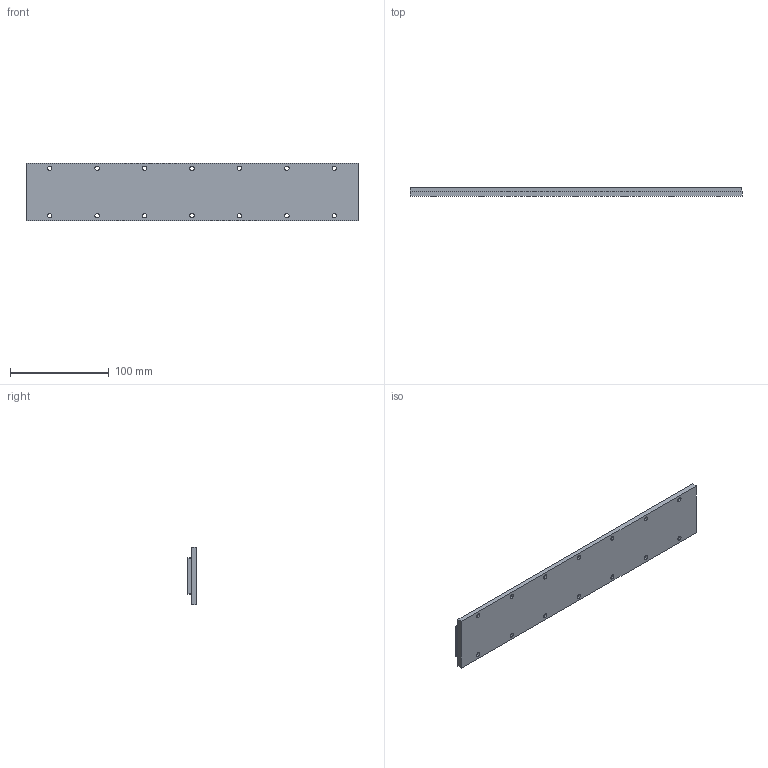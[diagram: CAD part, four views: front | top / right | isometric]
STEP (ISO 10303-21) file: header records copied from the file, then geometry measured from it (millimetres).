
FILE_DESCRIPTION (( 'STEP AP203' ), '1' );
FILE_NAME ('CS336.STEP', '2025-12-28T08:03:38', ( '' ), ( '' ), 'SwSTEP 2.0', 'SolidWorks 2024', '' );
FILE_SCHEMA (( 'CONFIG_CONTROL_DESIGN' ));
Length unit declared in the file: millimetre
Products named in the file (1): CS336
Bounding box: 336 x 8.7 x 58 mm (x, y, z)
Volume: 140129.2 mm3; surface area: 51781.4 mm2
Topology: 1 solids, 1 shells, 123 faces, 296 edges, 192 vertices
Faces by surface type: cylinder 60, plane 51, bspline 12
Entity records: 3959 total; most frequent: CARTESIAN_POINT 920, DIRECTION 616, ORIENTED_EDGE 592, EDGE_CURVE 296, AXIS2_PLACEMENT_3D 232, VERTEX_POINT 192, EDGE_LOOP 168, LINE 152
